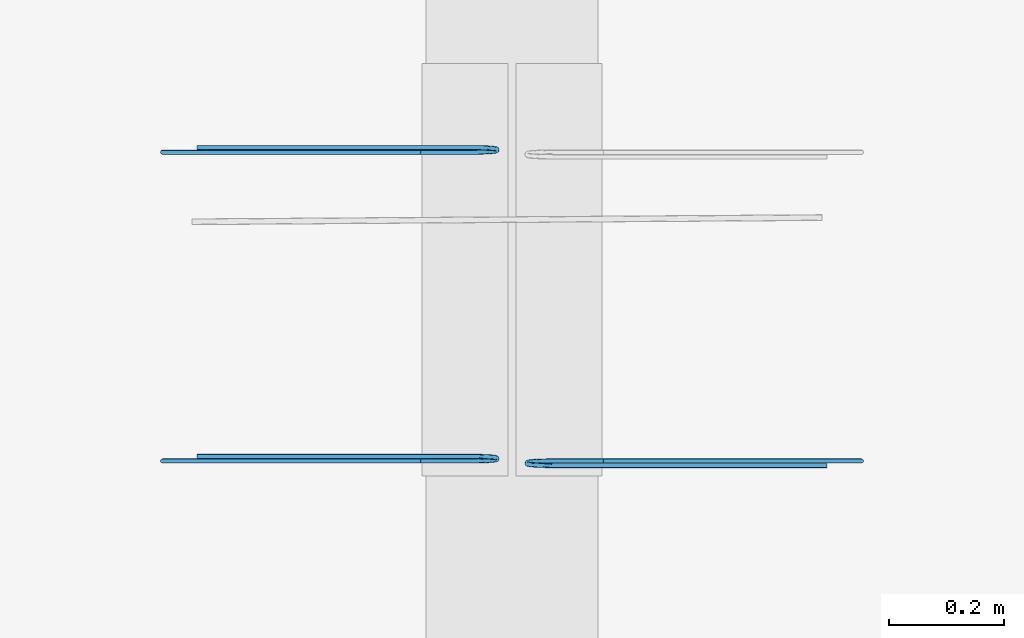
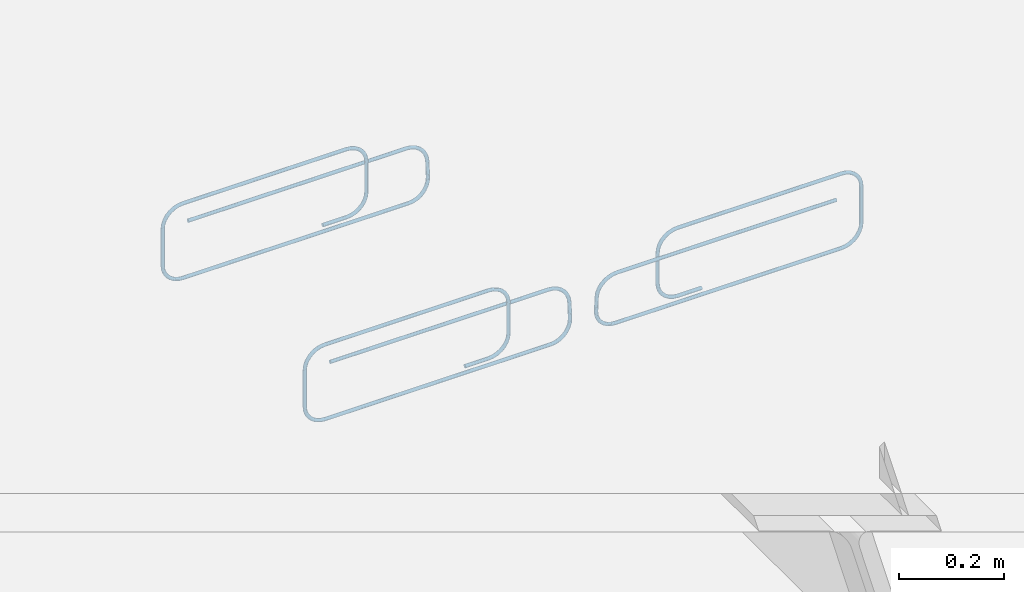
# One storey, part 16 of 16: 3 reinforcing bars.
"""IFC2X3 building model written with IfcOpenShell, lengths in millimetres."""

from ifc_helpers import new_model, entity, si_unit, converted_unit, derived_unit, direction, frame, origin, place, context, subcontext, project, spatial, element, save


model = new_model("IFC2X3")

# Units and contexts
model_context = context("Model", 3, precision=0.01, world=origin(), true_north=direction((6.12303176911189e-17, 1.0)))
body_context = subcontext(model_context, "Body", "Model", "MODEL_VIEW")
ifc_project = project(units=[si_unit("LENGTHUNIT", "METRE", prefix="MILLI"), si_unit("AREAUNIT", "SQUARE_METRE"), si_unit("VOLUMEUNIT", "CUBIC_METRE"), converted_unit("PLANEANGLEUNIT", "DEGREE", entity("IfcRatioMeasure", 0.0174532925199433), si_unit("PLANEANGLEUNIT", "RADIAN"), dimensions=[0, 0, 0, 0, 0, 0, 0]), si_unit("MASSUNIT", "GRAM", prefix="KILO"), derived_unit("MASSDENSITYUNIT", [(si_unit("MASSUNIT", "GRAM", prefix="KILO"), 1), (si_unit("LENGTHUNIT", "METRE"), -3)]), derived_unit("MOMENTOFINERTIAUNIT", [(si_unit("LENGTHUNIT", "METRE"), 4)]), si_unit("TIMEUNIT", "SECOND"), si_unit("FREQUENCYUNIT", "HERTZ"), si_unit("THERMODYNAMICTEMPERATUREUNIT", "DEGREE_CELSIUS"), derived_unit("THERMALTRANSMITTANCEUNIT", [(si_unit("MASSUNIT", "GRAM", prefix="KILO"), 1), (si_unit("THERMODYNAMICTEMPERATUREUNIT", "KELVIN"), -1), (si_unit("TIMEUNIT", "SECOND"), -3)]), derived_unit("VOLUMETRICFLOWRATEUNIT", [(si_unit("LENGTHUNIT", "METRE"), 3), (si_unit("TIMEUNIT", "SECOND"), -1)]), si_unit("ELECTRICCURRENTUNIT", "AMPERE"), si_unit("ELECTRICVOLTAGEUNIT", "VOLT"), si_unit("POWERUNIT", "WATT"), si_unit("FORCEUNIT", "NEWTON", prefix="KILO"), si_unit("ILLUMINANCEUNIT", "LUX"), si_unit("LUMINOUSFLUXUNIT", "LUMEN"), si_unit("LUMINOUSINTENSITYUNIT", "CANDELA"), derived_unit("USERDEFINED", [(si_unit("MASSUNIT", "GRAM", prefix="KILO"), -1), (si_unit("LENGTHUNIT", "METRE"), -2), (si_unit("TIMEUNIT", "SECOND"), 3), (si_unit("LUMINOUSFLUXUNIT", "LUMEN"), 1)]), derived_unit("LINEARVELOCITYUNIT", [(si_unit("LENGTHUNIT", "METRE"), 1), (si_unit("TIMEUNIT", "SECOND"), -1)]), si_unit("PRESSUREUNIT", "PASCAL"), derived_unit("USERDEFINED", [(si_unit("LENGTHUNIT", "METRE"), -2), (si_unit("MASSUNIT", "GRAM", prefix="KILO"), 1), (si_unit("TIMEUNIT", "SECOND"), -2)]), derived_unit("LINEARFORCEUNIT", [(si_unit("MASSUNIT", "GRAM", prefix="KILO"), 1), (si_unit("LENGTHUNIT", "METRE"), 1), (si_unit("TIMEUNIT", "SECOND"), -2), (si_unit("LENGTHUNIT", "METRE"), -1)]), derived_unit("PLANARFORCEUNIT", [(si_unit("MASSUNIT", "GRAM", prefix="KILO"), 1), (si_unit("LENGTHUNIT", "METRE"), 1), (si_unit("TIMEUNIT", "SECOND"), -2), (si_unit("LENGTHUNIT", "METRE"), -2)])], contexts=[model_context])

# Site, building, storey
site_placement = place(None, origin())
site = spatial("IfcSite", under=ifc_project, at=site_placement, Name="Default", CompositionType="ELEMENT")
building_placement = place(site_placement, origin())
building = spatial("IfcBuilding", under=site, at=building_placement, CompositionType="ELEMENT")
storey_placement = place(building_placement, frame((0.0, 0.0, 3500.0)))
storey = spatial("IfcBuildingStorey", under=building, at=storey_placement, Name="01 eerste verdieping", CompositionType="ELEMENT", Elevation=3500.00000000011)

# Reinforcing bars
reinforcing_bar_1_placement = place(storey_placement, origin())
ifc_direction_1 = entity("IfcDirection", [0.0, 1.0, 0.0])
ifc_direction_2 = entity("IfcDirection", [-1.0, 0.0, 0.0])
element("IfcReinforcingBar", 1, at=reinforcing_bar_1_placement, inside=storey, Name="Rebar Bar:SR_ø8 : Shape Rebar Shape 5: 2", ObjectType="Rebar Bar:SR_ø8", BarLength=1985.60583193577, BarRole="NOTDEFINED", CrossSectionArea=5.02654824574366e-05, NominalDiameter=8.0, context=body_context, shape_type="AdvancedSweptSolid", body=[
    entity("IfcSweptDiskSolid", entity("IfcCompositeCurve", [entity("IfcCompositeCurveSegment", "CONTINUOUS", True, entity("IfcPolyline", [entity("IfcCartesianPoint", [29228.5432654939, 30421.8899797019, 209.138583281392]), entity("IfcCartesianPoint", [29176.5432654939, 30421.8899797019, 209.138583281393])])), entity("IfcCompositeCurveSegment", "CONTINUOUS", True, entity("IfcTrimmedCurve", entity("IfcCircle", entity("IfcAxis2Placement3D", entity("IfcCartesianPoint", [29176.5432654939, 30421.8899797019, 253.138583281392]), ifc_direction_1, ifc_direction_2), 44.0), [entity("IfcParameterValue", 270.0)], [entity("IfcParameterValue", 360.0)], True, "PARAMETER")), entity("IfcCompositeCurveSegment", "CONTINUOUS", True, entity("IfcPolyline", [entity("IfcCartesianPoint", [29132.5432654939, 30421.8899797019, 253.138583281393]), entity("IfcCartesianPoint", [29132.5432654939, 30421.8899797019, 322.533605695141])])), entity("IfcCompositeCurveSegment", "CONTINUOUS", True, entity("IfcTrimmedCurve", entity("IfcCircle", entity("IfcAxis2Placement3D", entity("IfcCartesianPoint", [29176.5432654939, 30421.8899797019, 322.53360569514]), ifc_direction_1, entity("IfcDirection", [0.0, 0.0, 1.0])), 44.0), [entity("IfcParameterValue", 270.0)], [entity("IfcParameterValue", 360.0)], True, "PARAMETER")), entity("IfcCompositeCurveSegment", "CONTINUOUS", True, entity("IfcPolyline", [entity("IfcCartesianPoint", [29176.5432654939, 30421.8899797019, 366.53360569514]), entity("IfcCartesianPoint", [29534.594475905, 30421.8899797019, 366.533605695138])])), entity("IfcCompositeCurveSegment", "CONTINUOUS", True, entity("IfcTrimmedCurve", entity("IfcCircle", entity("IfcAxis2Placement3D", entity("IfcCartesianPoint", [29534.5944759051, 30421.8899797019, 322.533605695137]), ifc_direction_1, entity("IfcDirection", [1.0, 0.0, 0.0])), 44.0), [entity("IfcParameterValue", 270.0)], [entity("IfcParameterValue", 360.0)], True, "PARAMETER")), entity("IfcCompositeCurveSegment", "CONTINUOUS", True, entity("IfcPolyline", [entity("IfcCartesianPoint", [29578.594475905, 30421.8899797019, 322.533605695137]), entity("IfcCartesianPoint", [29578.594475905, 30421.8899797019, 238.0])])), entity("IfcCompositeCurveSegment", "CONTINUOUS", True, entity("IfcTrimmedCurve", entity("IfcCircle", entity("IfcAxis2Placement3D", entity("IfcCartesianPoint", [29534.5944759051, 30421.8899797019, 238.0]), ifc_direction_1, entity("IfcDirection", [0.0, 0.0, -1.0])), 44.0), [entity("IfcParameterValue", 270.0)], [entity("IfcParameterValue", 360.0)], True, "PARAMETER")), entity("IfcCompositeCurveSegment", "CONTINUOUS", True, entity("IfcPolyline", [entity("IfcCartesianPoint", [29534.5944759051, 30421.8899797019, 194.0]), entity("IfcCartesianPoint", [29040.3012070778, 30421.8899797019, 194.0])])), entity("IfcCompositeCurveSegment", "CONTINUOUS", True, entity("IfcTrimmedCurve", entity("IfcCircle", entity("IfcAxis2Placement3D", entity("IfcCartesianPoint", [29040.3012070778, 30419.0109170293, 237.905705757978]), entity("IfcDirection", [0.0, 0.997856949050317, 0.0654332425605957]), ifc_direction_2), 44.0), [entity("IfcParameterValue", 270.0)], [entity("IfcParameterValue", 360.0)], True, "PARAMETER")), entity("IfcCompositeCurveSegment", "CONTINUOUS", True, entity("IfcPolyline", [entity("IfcCartesianPoint", [28996.3012070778, 30419.0109170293, 237.905705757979]), entity("IfcCartesianPoint", [28996.3012070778, 30416.7690423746, 272.094294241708])])), entity("IfcCompositeCurveSegment", "CONTINUOUS", True, entity("IfcTrimmedCurve", entity("IfcCircle", entity("IfcAxis2Placement3D", entity("IfcCartesianPoint", [29040.3012070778, 30416.7690423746, 272.094294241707]), entity("IfcDirection", [0.0, 0.997856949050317, 0.0654332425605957]), entity("IfcDirection", [0.0, -0.0654332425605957, 0.997856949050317])), 44.0), [entity("IfcParameterValue", 270.0)], [entity("IfcParameterValue", 360.0)], True, "PARAMETER")), entity("IfcCompositeCurveSegment", "CONTINUOUS", True, entity("IfcPolyline", [entity("IfcCartesianPoint", [29040.3012070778, 30413.8899797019, 316.0]), entity("IfcCartesianPoint", [29518.943701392, 30413.8899797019, 316.0])]))], False), 4.0, None, 0.0, 547.0),
])
reinforcing_bar_2_placement = place(storey_placement, origin())
ifc_direction_3 = entity("IfcDirection", [0.0, -1.0, 0.0])
ifc_direction_4 = entity("IfcDirection", [1.0, 0.0, 0.0])
element("IfcReinforcingBar", 2, at=reinforcing_bar_2_placement, inside=storey, Name="Rebar Bar:SR_ø8 : Shape Rebar Shape 5: 1", ObjectType="Rebar Bar:SR_ø8", BarLength=1985.60583193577, BarRole="NOTDEFINED", CrossSectionArea=5.02654824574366e-05, NominalDiameter=8.0, context=body_context, shape_type="AdvancedSweptSolid", body=[
    entity("IfcSweptDiskSolid", entity("IfcCompositeCurve", [entity("IfcCompositeCurveSegment", "CONTINUOUS", True, entity("IfcPolyline", [entity("IfcCartesianPoint", [28710.3266875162, 30960.6285675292, 209.138583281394]), entity("IfcCartesianPoint", [28762.3266875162, 30960.6285675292, 209.138583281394])])), entity("IfcCompositeCurveSegment", "CONTINUOUS", True, entity("IfcTrimmedCurve", entity("IfcCircle", entity("IfcAxis2Placement3D", entity("IfcCartesianPoint", [28762.3266875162, 30960.6285675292, 253.138583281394]), ifc_direction_3, ifc_direction_4), 44.0), [entity("IfcParameterValue", 270.0)], [entity("IfcParameterValue", 360.0)], True, "PARAMETER")), entity("IfcCompositeCurveSegment", "CONTINUOUS", True, entity("IfcPolyline", [entity("IfcCartesianPoint", [28806.3266875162, 30960.6285675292, 253.138583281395]), entity("IfcCartesianPoint", [28806.3266875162, 30960.6285675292, 322.533605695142])])), entity("IfcCompositeCurveSegment", "CONTINUOUS", True, entity("IfcTrimmedCurve", entity("IfcCircle", entity("IfcAxis2Placement3D", entity("IfcCartesianPoint", [28762.3266875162, 30960.6285675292, 322.533605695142]), ifc_direction_3, entity("IfcDirection", [0.0, 0.0, 1.0])), 44.0), [entity("IfcParameterValue", 270.0)], [entity("IfcParameterValue", 360.0)], True, "PARAMETER")), entity("IfcCompositeCurveSegment", "CONTINUOUS", True, entity("IfcPolyline", [entity("IfcCartesianPoint", [28762.3266875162, 30960.6285675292, 366.533605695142]), entity("IfcCartesianPoint", [28404.275477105, 30960.6285675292, 366.533605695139])])), entity("IfcCompositeCurveSegment", "CONTINUOUS", True, entity("IfcTrimmedCurve", entity("IfcCircle", entity("IfcAxis2Placement3D", entity("IfcCartesianPoint", [28404.275477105, 30960.6285675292, 322.533605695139]), ifc_direction_3, entity("IfcDirection", [-1.0, 0.0, 0.0])), 44.0), [entity("IfcParameterValue", 270.0)], [entity("IfcParameterValue", 360.0)], True, "PARAMETER")), entity("IfcCompositeCurveSegment", "CONTINUOUS", True, entity("IfcPolyline", [entity("IfcCartesianPoint", [28360.275477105, 30960.6285675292, 322.533605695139]), entity("IfcCartesianPoint", [28360.275477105, 30960.6285675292, 238.0])])), entity("IfcCompositeCurveSegment", "CONTINUOUS", True, entity("IfcTrimmedCurve", entity("IfcCircle", entity("IfcAxis2Placement3D", entity("IfcCartesianPoint", [28404.275477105, 30960.6285675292, 238.0]), ifc_direction_3, entity("IfcDirection", [0.0, 0.0, -1.0])), 44.0), [entity("IfcParameterValue", 270.0)], [entity("IfcParameterValue", 360.0)], True, "PARAMETER")), entity("IfcCompositeCurveSegment", "CONTINUOUS", True, entity("IfcPolyline", [entity("IfcCartesianPoint", [28404.275477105, 30960.6285675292, 194.0]), entity("IfcCartesianPoint", [28898.5687459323, 30960.6285675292, 194.0])])), entity("IfcCompositeCurveSegment", "CONTINUOUS", True, entity("IfcTrimmedCurve", entity("IfcCircle", entity("IfcAxis2Placement3D", entity("IfcCartesianPoint", [28898.5687459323, 30963.5076302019, 237.90570575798]), entity("IfcDirection", [0.0, -0.997856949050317, 0.0654332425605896]), ifc_direction_4), 44.0), [entity("IfcParameterValue", 270.0)], [entity("IfcParameterValue", 360.0)], True, "PARAMETER")), entity("IfcCompositeCurveSegment", "CONTINUOUS", True, entity("IfcPolyline", [entity("IfcCartesianPoint", [28942.5687459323, 30963.5076302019, 237.905705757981]), entity("IfcCartesianPoint", [28942.5687459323, 30965.7495048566, 272.094294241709])])), entity("IfcCompositeCurveSegment", "CONTINUOUS", True, entity("IfcTrimmedCurve", entity("IfcCircle", entity("IfcAxis2Placement3D", entity("IfcCartesianPoint", [28898.5687459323, 30965.7495048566, 272.094294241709]), entity("IfcDirection", [0.0, -0.997856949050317, 0.0654332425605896]), entity("IfcDirection", [0.0, 0.0654332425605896, 0.997856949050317])), 44.0), [entity("IfcParameterValue", 270.0)], [entity("IfcParameterValue", 360.0)], True, "PARAMETER")), entity("IfcCompositeCurveSegment", "CONTINUOUS", True, entity("IfcPolyline", [entity("IfcCartesianPoint", [28898.5687459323, 30968.6285675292, 316.0]), entity("IfcCartesianPoint", [28419.926251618, 30968.6285675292, 316.0])]))], False), 4.0, None, 0.0, 547.0),
])
reinforcing_bar_3_placement = place(storey_placement, origin())
ifc_direction_5 = entity("IfcDirection", [0.0, -1.0, 0.0])
ifc_direction_6 = entity("IfcDirection", [1.0, 0.0, 0.0])
element("IfcReinforcingBar", 3, at=reinforcing_bar_3_placement, inside=storey, Name="Rebar Bar:SR_ø8 : Shape Rebar Shape 5: 2", ObjectType="Rebar Bar:SR_ø8", BarLength=1985.60583193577, BarRole="NOTDEFINED", CrossSectionArea=5.02654824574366e-05, NominalDiameter=8.0, context=body_context, shape_type="AdvancedSweptSolid", body=[
    entity("IfcSweptDiskSolid", entity("IfcCompositeCurve", [entity("IfcCompositeCurveSegment", "CONTINUOUS", True, entity("IfcPolyline", [entity("IfcCartesianPoint", [28710.3266875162, 30421.8899797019, 209.138583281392]), entity("IfcCartesianPoint", [28762.3266875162, 30421.8899797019, 209.138583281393])])), entity("IfcCompositeCurveSegment", "CONTINUOUS", True, entity("IfcTrimmedCurve", entity("IfcCircle", entity("IfcAxis2Placement3D", entity("IfcCartesianPoint", [28762.3266875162, 30421.8899797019, 253.138583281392]), ifc_direction_5, ifc_direction_6), 44.0), [entity("IfcParameterValue", 270.0)], [entity("IfcParameterValue", 360.0)], True, "PARAMETER")), entity("IfcCompositeCurveSegment", "CONTINUOUS", True, entity("IfcPolyline", [entity("IfcCartesianPoint", [28806.3266875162, 30421.8899797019, 253.138583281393]), entity("IfcCartesianPoint", [28806.3266875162, 30421.8899797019, 322.533605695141])])), entity("IfcCompositeCurveSegment", "CONTINUOUS", True, entity("IfcTrimmedCurve", entity("IfcCircle", entity("IfcAxis2Placement3D", entity("IfcCartesianPoint", [28762.3266875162, 30421.8899797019, 322.53360569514]), ifc_direction_5, entity("IfcDirection", [0.0, 0.0, 1.0])), 44.0), [entity("IfcParameterValue", 270.0)], [entity("IfcParameterValue", 360.0)], True, "PARAMETER")), entity("IfcCompositeCurveSegment", "CONTINUOUS", True, entity("IfcPolyline", [entity("IfcCartesianPoint", [28762.3266875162, 30421.8899797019, 366.53360569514]), entity("IfcCartesianPoint", [28404.275477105, 30421.8899797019, 366.533605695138])])), entity("IfcCompositeCurveSegment", "CONTINUOUS", True, entity("IfcTrimmedCurve", entity("IfcCircle", entity("IfcAxis2Placement3D", entity("IfcCartesianPoint", [28404.275477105, 30421.8899797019, 322.533605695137]), ifc_direction_5, entity("IfcDirection", [-1.0, 0.0, 0.0])), 44.0), [entity("IfcParameterValue", 270.0)], [entity("IfcParameterValue", 360.0)], True, "PARAMETER")), entity("IfcCompositeCurveSegment", "CONTINUOUS", True, entity("IfcPolyline", [entity("IfcCartesianPoint", [28360.275477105, 30421.8899797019, 322.533605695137]), entity("IfcCartesianPoint", [28360.275477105, 30421.8899797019, 238.0])])), entity("IfcCompositeCurveSegment", "CONTINUOUS", True, entity("IfcTrimmedCurve", entity("IfcCircle", entity("IfcAxis2Placement3D", entity("IfcCartesianPoint", [28404.275477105, 30421.8899797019, 238.0]), ifc_direction_5, entity("IfcDirection", [0.0, 0.0, -1.0])), 44.0), [entity("IfcParameterValue", 270.0)], [entity("IfcParameterValue", 360.0)], True, "PARAMETER")), entity("IfcCompositeCurveSegment", "CONTINUOUS", True, entity("IfcPolyline", [entity("IfcCartesianPoint", [28404.275477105, 30421.8899797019, 194.0]), entity("IfcCartesianPoint", [28898.5687459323, 30421.8899797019, 194.0])])), entity("IfcCompositeCurveSegment", "CONTINUOUS", True, entity("IfcTrimmedCurve", entity("IfcCircle", entity("IfcAxis2Placement3D", entity("IfcCartesianPoint", [28898.5687459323, 30424.7690423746, 237.905705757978]), entity("IfcDirection", [0.0, -0.997856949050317, 0.0654332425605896]), ifc_direction_6), 44.0), [entity("IfcParameterValue", 270.0)], [entity("IfcParameterValue", 360.0)], True, "PARAMETER")), entity("IfcCompositeCurveSegment", "CONTINUOUS", True, entity("IfcPolyline", [entity("IfcCartesianPoint", [28942.5687459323, 30424.7690423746, 237.905705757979]), entity("IfcCartesianPoint", [28942.5687459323, 30427.0109170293, 272.094294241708])])), entity("IfcCompositeCurveSegment", "CONTINUOUS", True, entity("IfcTrimmedCurve", entity("IfcCircle", entity("IfcAxis2Placement3D", entity("IfcCartesianPoint", [28898.5687459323, 30427.0109170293, 272.094294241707]), entity("IfcDirection", [0.0, -0.997856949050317, 0.0654332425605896]), entity("IfcDirection", [0.0, 0.0654332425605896, 0.997856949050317])), 44.0), [entity("IfcParameterValue", 270.0)], [entity("IfcParameterValue", 360.0)], True, "PARAMETER")), entity("IfcCompositeCurveSegment", "CONTINUOUS", True, entity("IfcPolyline", [entity("IfcCartesianPoint", [28898.5687459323, 30429.8899797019, 316.0]), entity("IfcCartesianPoint", [28419.926251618, 30429.8899797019, 316.0])]))], False), 4.0, None, 0.0, 547.0),
])

save(model, "model.ifc")
